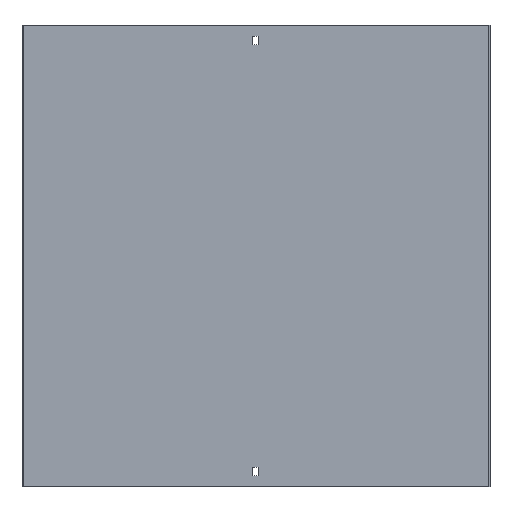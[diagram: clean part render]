
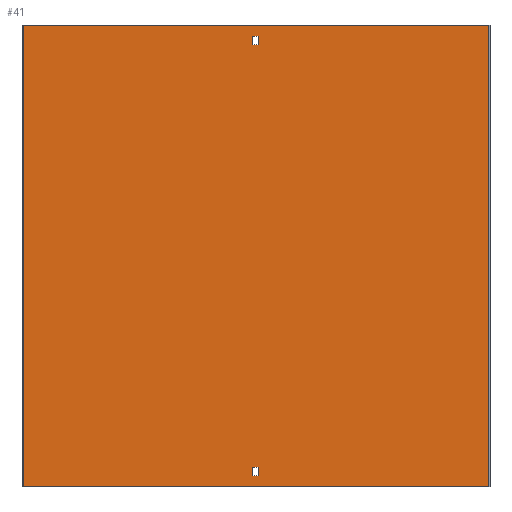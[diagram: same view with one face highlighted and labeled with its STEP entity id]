
A CAD part, front view. The second image highlights one B-rep face of the part: STEP entity #41.
In plain terms, the highlighted planar face has unit normal (0, -1, 0).
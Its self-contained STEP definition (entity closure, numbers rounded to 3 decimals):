
#5 = VECTOR ( 'NONE', #138, 1000. ) ;
#7 = VERTEX_POINT ( 'NONE', #109 ) ;
#15 = LINE ( 'NONE', #241, #102 ) ;
#19 = CARTESIAN_POINT ( 'NONE',  ( -3.25, -1.5, 238. ) ) ;
#25 = DIRECTION ( 'NONE',  ( 0., 0., -1. ) ) ;
#29 = EDGE_LOOP ( 'NONE', ( #156, #40, #274, #83 ) ) ;
#34 = VECTOR ( 'NONE', #105, 1000. ) ;
#35 = CARTESIAN_POINT ( 'NONE',  ( -252., -1.5, 250. ) ) ;
#39 = DIRECTION ( 'NONE',  ( 0., 0., -1. ) ) ;
#40 = ORIENTED_EDGE ( 'NONE', *, *, #226, .F. ) ;
#41 = ADVANCED_FACE ( 'NONE', ( #477, #71, #170 ), #66, .T. ) ;
#53 = AXIS2_PLACEMENT_3D ( 'NONE', #310, #438, #25 ) ;
#54 = VECTOR ( 'NONE', #382, 1000. ) ;
#66 = PLANE ( 'NONE',  #53 ) ;
#71 = FACE_OUTER_BOUND ( 'NONE', #29, .T. ) ;
#81 = CARTESIAN_POINT ( 'NONE',  ( -253.5, -1.5, -229. ) ) ;
#83 = ORIENTED_EDGE ( 'NONE', *, *, #359, .T. ) ;
#88 = CARTESIAN_POINT ( 'NONE',  ( -253.5, -1.5, 238. ) ) ;
#97 = VERTEX_POINT ( 'NONE', #360 ) ;
#102 = VECTOR ( 'NONE', #423, 1000. ) ;
#105 = DIRECTION ( 'NONE',  ( 0., 0., 1. ) ) ;
#109 = CARTESIAN_POINT ( 'NONE',  ( 252., -1.5, -250. ) ) ;
#115 = VERTEX_POINT ( 'NONE', #35 ) ;
#117 = CARTESIAN_POINT ( 'NONE',  ( -3.25, -1.5, -229. ) ) ;
#118 = DIRECTION ( 'NONE',  ( -1., 0., 0. ) ) ;
#126 = CARTESIAN_POINT ( 'NONE',  ( 3.25, -1.5, 250. ) ) ;
#127 = LINE ( 'NONE', #489, #547 ) ;
#138 = DIRECTION ( 'NONE',  ( 0., 0., 1. ) ) ;
#141 = VERTEX_POINT ( 'NONE', #117 ) ;
#143 = CARTESIAN_POINT ( 'NONE',  ( 3.25, -1.5, -238. ) ) ;
#144 = ORIENTED_EDGE ( 'NONE', *, *, #372, .F. ) ;
#156 = ORIENTED_EDGE ( 'NONE', *, *, #320, .F. ) ;
#157 = EDGE_CURVE ( 'NONE', #97, #262, #481, .T. ) ;
#160 = VECTOR ( 'NONE', #540, 1000. ) ;
#166 = LINE ( 'NONE', #337, #445 ) ;
#170 = FACE_BOUND ( 'NONE', #332, .T. ) ;
#171 = VECTOR ( 'NONE', #491, 1000. ) ;
#172 = ORIENTED_EDGE ( 'NONE', *, *, #157, .F. ) ;
#175 = ORIENTED_EDGE ( 'NONE', *, *, #560, .F. ) ;
#181 = LINE ( 'NONE', #543, #5 ) ;
#198 = CARTESIAN_POINT ( 'NONE',  ( -253.5, -1.5, -250. ) ) ;
#202 = ORIENTED_EDGE ( 'NONE', *, *, #216, .F. ) ;
#216 = EDGE_CURVE ( 'NONE', #306, #97, #15, .T. ) ;
#221 = CARTESIAN_POINT ( 'NONE',  ( 3.25, -1.5, -229. ) ) ;
#226 = EDGE_CURVE ( 'NONE', #233, #7, #286, .T. ) ;
#231 = VECTOR ( 'NONE', #421, 1000. ) ;
#233 = VERTEX_POINT ( 'NONE', #273 ) ;
#241 = CARTESIAN_POINT ( 'NONE',  ( -3.25, -1.5, 250. ) ) ;
#252 = VECTOR ( 'NONE', #271, 1000. ) ;
#254 = EDGE_CURVE ( 'NONE', #393, #141, #181, .T. ) ;
#262 = VERTEX_POINT ( 'NONE', #555 ) ;
#266 = VERTEX_POINT ( 'NONE', #143 ) ;
#271 = DIRECTION ( 'NONE',  ( -1., 0., 0. ) ) ;
#273 = CARTESIAN_POINT ( 'NONE',  ( 252., -1.5, 250. ) ) ;
#274 = ORIENTED_EDGE ( 'NONE', *, *, #494, .T. ) ;
#286 = LINE ( 'NONE', #497, #231 ) ;
#306 = VERTEX_POINT ( 'NONE', #19 ) ;
#310 = CARTESIAN_POINT ( 'NONE',  ( -253.5, -1.5, 250. ) ) ;
#316 = EDGE_LOOP ( 'NONE', ( #202, #175, #144, #172 ) ) ;
#318 = VECTOR ( 'NONE', #118, 1000. ) ;
#320 = EDGE_CURVE ( 'NONE', #7, #433, #520, .T. ) ;
#324 = LINE ( 'NONE', #493, #252 ) ;
#332 = EDGE_LOOP ( 'NONE', ( #373, #552, #469, #414 ) ) ;
#337 = CARTESIAN_POINT ( 'NONE',  ( -252., -1.5, 250. ) ) ;
#351 = LINE ( 'NONE', #387, #34 ) ;
#358 = VERTEX_POINT ( 'NONE', #394 ) ;
#359 = EDGE_CURVE ( 'NONE', #115, #433, #166, .T. ) ;
#360 = CARTESIAN_POINT ( 'NONE',  ( -3.25, -1.5, 229. ) ) ;
#370 = LINE ( 'NONE', #88, #160 ) ;
#372 = EDGE_CURVE ( 'NONE', #262, #358, #351, .T. ) ;
#373 = ORIENTED_EDGE ( 'NONE', *, *, #531, .T. ) ;
#382 = DIRECTION ( 'NONE',  ( 1., 0., 0. ) ) ;
#387 = CARTESIAN_POINT ( 'NONE',  ( 3.25, -1.5, 250. ) ) ;
#393 = VERTEX_POINT ( 'NONE', #471 ) ;
#394 = CARTESIAN_POINT ( 'NONE',  ( 3.25, -1.5, 238. ) ) ;
#414 = ORIENTED_EDGE ( 'NONE', *, *, #420, .T. ) ;
#420 = EDGE_CURVE ( 'NONE', #562, #266, #532, .T. ) ;
#421 = DIRECTION ( 'NONE',  ( 0., 0., -1. ) ) ;
#423 = DIRECTION ( 'NONE',  ( 0., 0., -1. ) ) ;
#433 = VERTEX_POINT ( 'NONE', #581 ) ;
#438 = DIRECTION ( 'NONE',  ( 0., -1., 0. ) ) ;
#445 = VECTOR ( 'NONE', #511, 1000. ) ;
#448 = LINE ( 'NONE', #81, #171 ) ;
#456 = EDGE_CURVE ( 'NONE', #141, #562, #448, .T. ) ;
#467 = CARTESIAN_POINT ( 'NONE',  ( -253.5, -1.5, 229. ) ) ;
#469 = ORIENTED_EDGE ( 'NONE', *, *, #456, .T. ) ;
#471 = CARTESIAN_POINT ( 'NONE',  ( -3.25, -1.5, -238. ) ) ;
#477 = FACE_BOUND ( 'NONE', #316, .T. ) ;
#481 = LINE ( 'NONE', #467, #54 ) ;
#489 = CARTESIAN_POINT ( 'NONE',  ( -253.5, -1.5, -238. ) ) ;
#491 = DIRECTION ( 'NONE',  ( 1., 0., 0. ) ) ;
#492 = DIRECTION ( 'NONE',  ( -1., 0., 0. ) ) ;
#493 = CARTESIAN_POINT ( 'NONE',  ( -253.5, -1.5, 250. ) ) ;
#494 = EDGE_CURVE ( 'NONE', #233, #115, #324, .T. ) ;
#497 = CARTESIAN_POINT ( 'NONE',  ( 252., -1.5, 250. ) ) ;
#507 = VECTOR ( 'NONE', #39, 1000. ) ;
#511 = DIRECTION ( 'NONE',  ( 0., 0., -1. ) ) ;
#520 = LINE ( 'NONE', #198, #318 ) ;
#531 = EDGE_CURVE ( 'NONE', #266, #393, #127, .T. ) ;
#532 = LINE ( 'NONE', #126, #507 ) ;
#540 = DIRECTION ( 'NONE',  ( -1., 0., 0. ) ) ;
#543 = CARTESIAN_POINT ( 'NONE',  ( -3.25, -1.5, 250. ) ) ;
#547 = VECTOR ( 'NONE', #492, 1000. ) ;
#552 = ORIENTED_EDGE ( 'NONE', *, *, #254, .T. ) ;
#555 = CARTESIAN_POINT ( 'NONE',  ( 3.25, -1.5, 229. ) ) ;
#560 = EDGE_CURVE ( 'NONE', #358, #306, #370, .T. ) ;
#562 = VERTEX_POINT ( 'NONE', #221 ) ;
#581 = CARTESIAN_POINT ( 'NONE',  ( -252., -1.5, -250. ) ) ;
